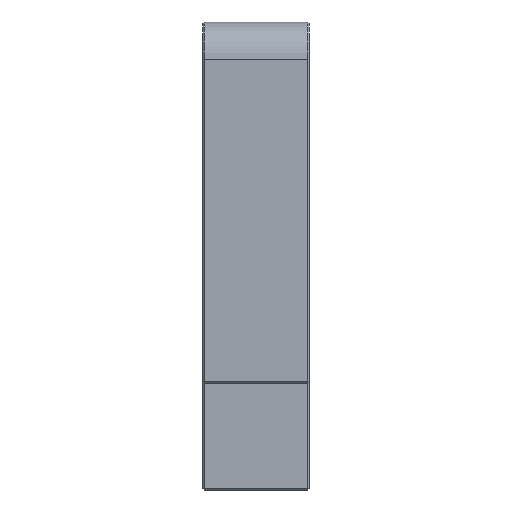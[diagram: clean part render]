
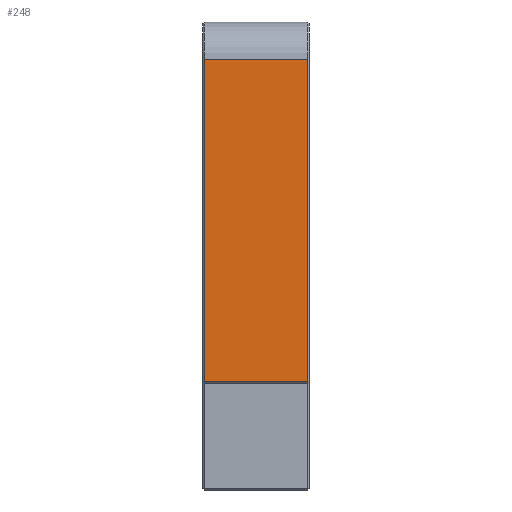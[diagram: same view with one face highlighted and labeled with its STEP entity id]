
A CAD part, front view. The second image highlights one B-rep face of the part: STEP entity #248.
In plain terms, the highlighted planar face has unit normal (0, -1, 0).
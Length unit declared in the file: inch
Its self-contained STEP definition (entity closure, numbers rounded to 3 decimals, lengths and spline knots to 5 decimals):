
#181 = VERTEX_POINT ( 'NONE', #410 ) ;
#187 = DIRECTION ( 'NONE',  ( 0., 0., 1. ) ) ;
#248 = ADVANCED_FACE ( 'NONE', ( #2732 ), #2284, .T. ) ;
#249 = CARTESIAN_POINT ( 'NONE',  ( 0., 0., -0.25 ) ) ;
#276 = CARTESIAN_POINT ( 'NONE',  ( 0.70866, 0., -2.39 ) ) ;
#350 = ORIENTED_EDGE ( 'NONE', *, *, #2756, .T. ) ;
#374 = VECTOR ( 'NONE', #953, 39.37008 ) ;
#410 = CARTESIAN_POINT ( 'NONE',  ( 0.01, 0., -0.25 ) ) ;
#535 = VECTOR ( 'NONE', #1527, 39.37008 ) ;
#881 = ORIENTED_EDGE ( 'NONE', *, *, #1091, .T. ) ;
#921 = CARTESIAN_POINT ( 'NONE',  ( 0.01, 0., -2.39 ) ) ;
#953 = DIRECTION ( 'NONE',  ( -1., 0., 0. ) ) ;
#966 = VECTOR ( 'NONE', #187, 39.37008 ) ;
#1091 = EDGE_CURVE ( 'NONE', #181, #1192, #1758, .T. ) ;
#1109 = CARTESIAN_POINT ( 'NONE',  ( 0.01, 0., -3.10866 ) ) ;
#1134 = CARTESIAN_POINT ( 'NONE',  ( 0., 0., -3.10866 ) ) ;
#1192 = VERTEX_POINT ( 'NONE', #921 ) ;
#1380 = ORIENTED_EDGE ( 'NONE', *, *, #1696, .T. ) ;
#1527 = DIRECTION ( 'NONE',  ( 0., 0., -1. ) ) ;
#1613 = DIRECTION ( 'NONE',  ( 1., 0., 0. ) ) ;
#1696 = EDGE_CURVE ( 'NONE', #1192, #1889, #2762, .T. ) ;
#1699 = EDGE_CURVE ( 'NONE', #2301, #181, #2084, .T. ) ;
#1722 = CARTESIAN_POINT ( 'NONE',  ( 0.69866, 0., -2.39 ) ) ;
#1758 = LINE ( 'NONE', #1109, #535 ) ;
#1775 = CARTESIAN_POINT ( 'NONE',  ( 0.69866, 0., -0.25 ) ) ;
#1858 = EDGE_LOOP ( 'NONE', ( #1380, #350, #2486, #881 ) ) ;
#1889 = VERTEX_POINT ( 'NONE', #1722 ) ;
#2051 = DIRECTION ( 'NONE',  ( 0., -1., 0. ) ) ;
#2084 = LINE ( 'NONE', #249, #374 ) ;
#2284 = PLANE ( 'NONE',  #2494 ) ;
#2285 = CARTESIAN_POINT ( 'NONE',  ( 0.69866, 0., -3.10866 ) ) ;
#2301 = VERTEX_POINT ( 'NONE', #1775 ) ;
#2479 = LINE ( 'NONE', #2285, #966 ) ;
#2486 = ORIENTED_EDGE ( 'NONE', *, *, #1699, .T. ) ;
#2494 = AXIS2_PLACEMENT_3D ( 'NONE', #1134, #2051, #2586 ) ;
#2586 = DIRECTION ( 'NONE',  ( 0., 0., -1. ) ) ;
#2732 = FACE_OUTER_BOUND ( 'NONE', #1858, .T. ) ;
#2756 = EDGE_CURVE ( 'NONE', #1889, #2301, #2479, .T. ) ;
#2762 = LINE ( 'NONE', #276, #2785 ) ;
#2785 = VECTOR ( 'NONE', #1613, 39.37008 ) ;
